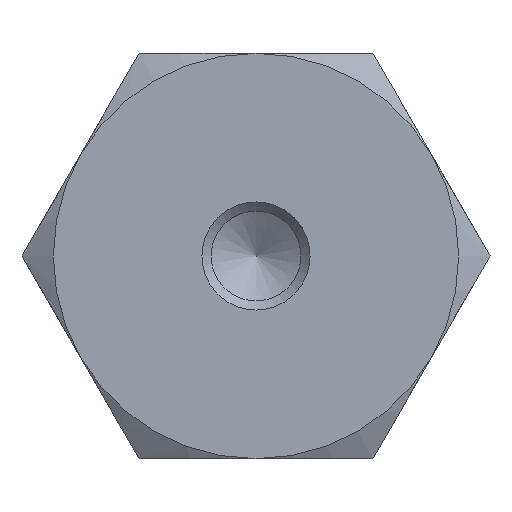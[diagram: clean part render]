
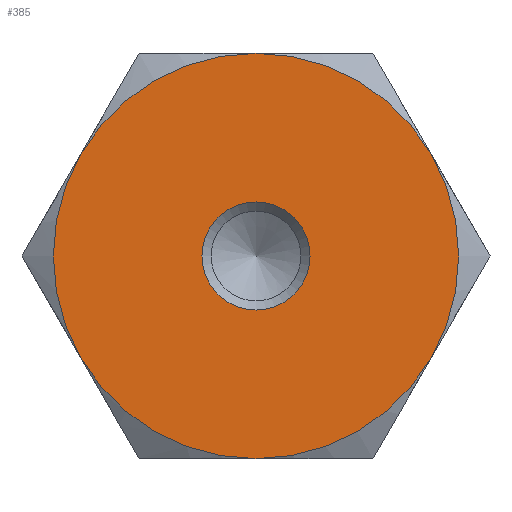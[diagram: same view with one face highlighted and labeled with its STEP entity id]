
A CAD part, front view. The second image highlights one B-rep face of the part: STEP entity #385.
In plain terms, the highlighted planar face has unit normal (0, -1, 0).
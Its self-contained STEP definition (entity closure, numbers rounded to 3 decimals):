
#164=ORIENTED_EDGE('',*,*,#224,.F.);
#165=ORIENTED_EDGE('',*,*,#219,.T.);
#166=ORIENTED_EDGE('',*,*,#223,.T.);
#167=ORIENTED_EDGE('',*,*,#222,.T.);
#168=ORIENTED_EDGE('',*,*,#221,.T.);
#169=ORIENTED_EDGE('',*,*,#225,.T.);
#170=ORIENTED_EDGE('',*,*,#220,.T.);
#219=EDGE_CURVE('',#248,#250,#270,.T.);
#220=EDGE_CURVE('',#246,#248,#271,.T.);
#221=EDGE_CURVE('',#254,#255,#272,.T.);
#222=EDGE_CURVE('',#252,#254,#273,.T.);
#223=EDGE_CURVE('',#250,#252,#274,.T.);
#224=EDGE_CURVE('',#256,#256,#275,.T.);
#225=EDGE_CURVE('',#255,#246,#276,.T.);
#246=VERTEX_POINT('',#620);
#248=VERTEX_POINT('',#632);
#250=VERTEX_POINT('',#644);
#252=VERTEX_POINT('',#656);
#254=VERTEX_POINT('',#668);
#255=VERTEX_POINT('',#678);
#256=VERTEX_POINT('',#695);
#270=CIRCLE('',#431,15.);
#271=CIRCLE('',#433,15.);
#272=CIRCLE('',#435,15.);
#273=CIRCLE('',#437,15.);
#274=CIRCLE('',#439,15.);
#275=CIRCLE('',#441,4.);
#276=CIRCLE('',#442,15.);
#305=EDGE_LOOP('',(#164));
#306=EDGE_LOOP('',(#165,#166,#167,#168,#169,#170));
#339=FACE_BOUND('',#305,.T.);
#340=FACE_BOUND('',#306,.T.);
#362=PLANE('',#440);
#385=ADVANCED_FACE('',(#339,#340),#362,.F.);
#431=AXIS2_PLACEMENT_3D('',#684,#525,#526);
#433=AXIS2_PLACEMENT_3D('',#686,#529,#530);
#435=AXIS2_PLACEMENT_3D('',#688,#533,#534);
#437=AXIS2_PLACEMENT_3D('',#690,#537,#538);
#439=AXIS2_PLACEMENT_3D('',#692,#541,#542);
#440=AXIS2_PLACEMENT_3D('',#693,#543,#544);
#441=AXIS2_PLACEMENT_3D('',#694,#545,#546);
#442=AXIS2_PLACEMENT_3D('',#696,#547,#548);
#525=DIRECTION('',(0.,-1.,0.));
#526=DIRECTION('',(0.,0.,-1.));
#529=DIRECTION('',(0.,-1.,0.));
#530=DIRECTION('',(0.,0.,-1.));
#533=DIRECTION('',(0.,-1.,0.));
#534=DIRECTION('',(0.,0.,-1.));
#537=DIRECTION('',(0.,-1.,0.));
#538=DIRECTION('',(0.,0.,-1.));
#541=DIRECTION('',(0.,-1.,0.));
#542=DIRECTION('',(0.,0.,-1.));
#543=DIRECTION('',(0.,1.,0.));
#544=DIRECTION('',(0.,0.,1.));
#545=DIRECTION('',(0.,-1.,0.));
#546=DIRECTION('',(0.,0.,-1.));
#547=DIRECTION('',(0.,-1.,0.));
#548=DIRECTION('',(0.,0.,-1.));
#620=CARTESIAN_POINT('',(-12.99,0.,-7.5));
#632=CARTESIAN_POINT('',(0.,0.,-15.));
#644=CARTESIAN_POINT('',(12.99,0.,-7.5));
#656=CARTESIAN_POINT('',(12.99,0.,7.5));
#668=CARTESIAN_POINT('',(0.,0.,15.));
#678=CARTESIAN_POINT('',(-12.99,0.,7.5));
#684=CARTESIAN_POINT('',(0.,0.,0.));
#686=CARTESIAN_POINT('',(0.,0.,0.));
#688=CARTESIAN_POINT('',(0.,0.,0.));
#690=CARTESIAN_POINT('',(0.,0.,0.));
#692=CARTESIAN_POINT('',(0.,0.,0.));
#693=CARTESIAN_POINT('',(15.,0.,0.));
#694=CARTESIAN_POINT('',(0.,0.,0.));
#695=CARTESIAN_POINT('',(0.,0.,-4.));
#696=CARTESIAN_POINT('',(0.,0.,0.));
